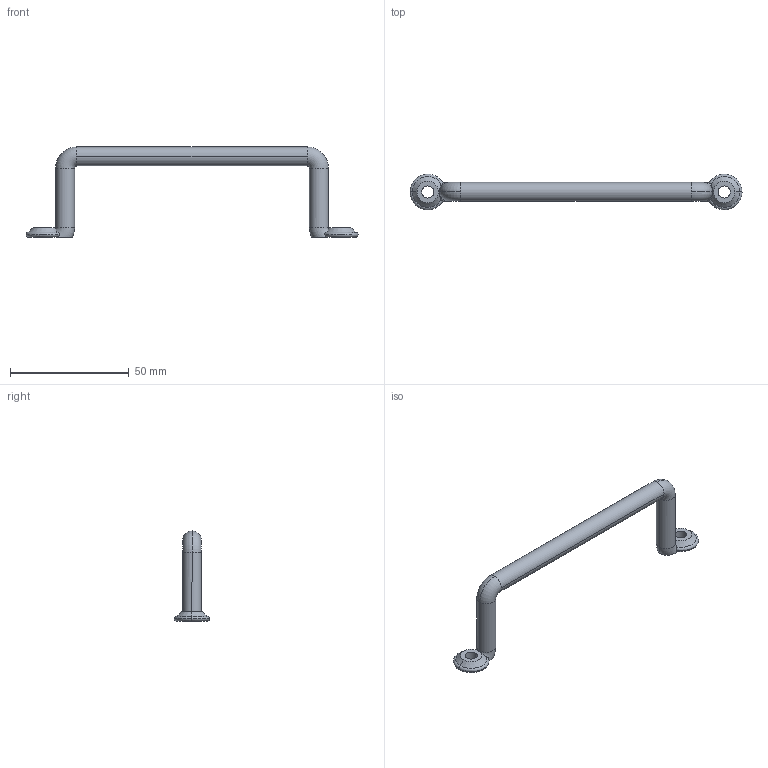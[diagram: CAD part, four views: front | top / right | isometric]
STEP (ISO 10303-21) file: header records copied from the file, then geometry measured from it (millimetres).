
FILE_DESCRIPTION((''),'2;1');
FILE_NAME('6420.10.02.stp','2023-10-10T10:09:38',(''),(''),'Mechanical Desktop 2006','Mechanical Desktop 2006',', , ');
FILE_SCHEMA(('CONFIG_CONTROL_DESIGN'));
Length unit declared in the file: millimetre
Products named in the file (2): Product; *U19
Assembly tree (1 placements, depth 2):
  Product
    *U19
Bounding box: 140 x 15 x 38 mm (x, y, z)
Volume: 9410 mm3; surface area: 5175.3 mm2
Topology: 1 solids, 1 shells, 34 faces, 88 edges, 56 vertices
Faces by surface type: torus 16, cylinder 10, cone 4, plane 4
Entity records: 1559 total; most frequent: CARTESIAN_POINT 600, DIRECTION 194, ORIENTED_EDGE 176, AXIS2_PLACEMENT_3D 90, EDGE_CURVE 88, VERTEX_POINT 56, CIRCLE 54, EDGE_LOOP 38
